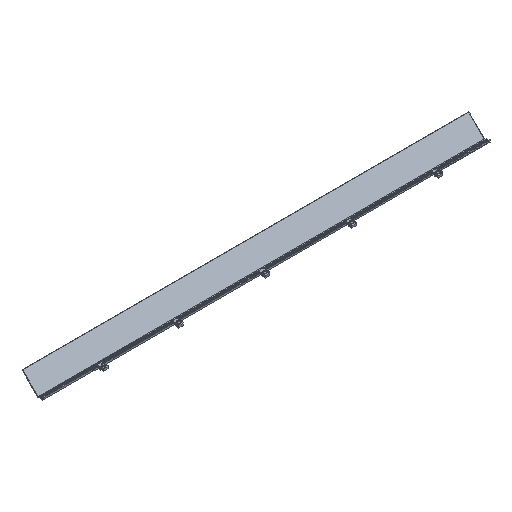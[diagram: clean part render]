
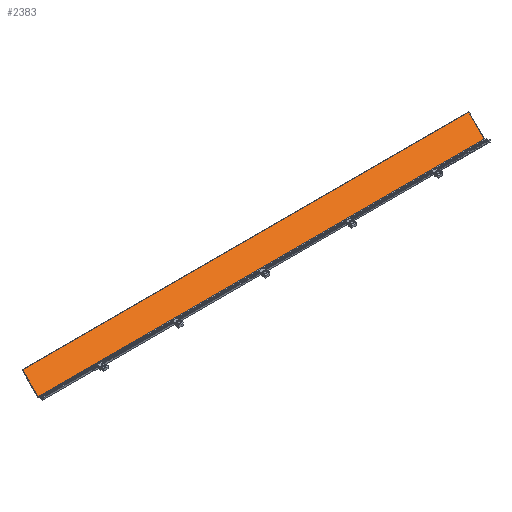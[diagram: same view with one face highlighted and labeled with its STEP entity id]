
A CAD part, isometric view. The second image highlights one B-rep face of the part: STEP entity #2383.
In plain terms, the highlighted planar face has unit normal (0, -0.707, 0.707).
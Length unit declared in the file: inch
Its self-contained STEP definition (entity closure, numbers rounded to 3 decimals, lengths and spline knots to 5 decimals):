
#382=DIRECTION('',(0.,-0.707,-0.707));
#383=VECTOR('',#382,2.95667);
#384=CARTESIAN_POINT('',(-30.,3.36518,5.09068));
#385=LINE('',#384,#383);
#434=DIRECTION('',(0.,0.707,0.707));
#435=VECTOR('',#434,2.95667);
#436=CARTESIAN_POINT('',(30.,1.2745,3.));
#437=LINE('',#436,#435);
#474=DIRECTION('',(-1.,0.,0.));
#475=VECTOR('',#474,60.);
#476=CARTESIAN_POINT('',(30.,1.2745,3.));
#477=LINE('',#476,#475);
#478=DIRECTION('',(-1.,0.,0.));
#479=VECTOR('',#478,60.);
#480=CARTESIAN_POINT('',(30.,3.36518,5.09068));
#481=LINE('',#480,#479);
#1559=CARTESIAN_POINT('',(-30.,3.36518,5.09068));
#1560=VERTEX_POINT('',#1559);
#1561=CARTESIAN_POINT('',(-30.,1.2745,3.));
#1562=VERTEX_POINT('',#1561);
#1583=CARTESIAN_POINT('',(30.,1.2745,3.));
#1584=VERTEX_POINT('',#1583);
#1585=CARTESIAN_POINT('',(30.,3.36518,5.09068));
#1586=VERTEX_POINT('',#1585);
#2371=CARTESIAN_POINT('',(-30.,3.36518,5.09068));
#2372=DIRECTION('',(0.,-0.707,0.707));
#2373=DIRECTION('',(0.,-0.707,-0.707));
#2374=AXIS2_PLACEMENT_3D('',#2371,#2372,#2373);
#2375=PLANE('',#2374);
#2376=ORIENTED_EDGE('',*,*,#2270,.F.);
#2378=ORIENTED_EDGE('',*,*,#2377,.F.);
#2379=ORIENTED_EDGE('',*,*,#2316,.F.);
#2380=ORIENTED_EDGE('',*,*,#2365,.T.);
#2381=EDGE_LOOP('',(#2376,#2378,#2379,#2380));
#2382=FACE_OUTER_BOUND('',#2381,.F.);
#2270=EDGE_CURVE('',#1560,#1562,#385,.T.);
#2316=EDGE_CURVE('',#1584,#1586,#437,.T.);
#2365=EDGE_CURVE('',#1584,#1562,#477,.T.);
#2377=EDGE_CURVE('',#1586,#1560,#481,.T.);
#2383=ADVANCED_FACE('',(#2382),#2375,.T.);
